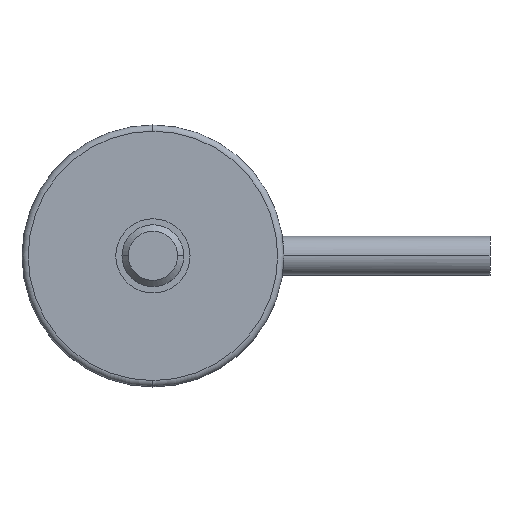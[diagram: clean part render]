
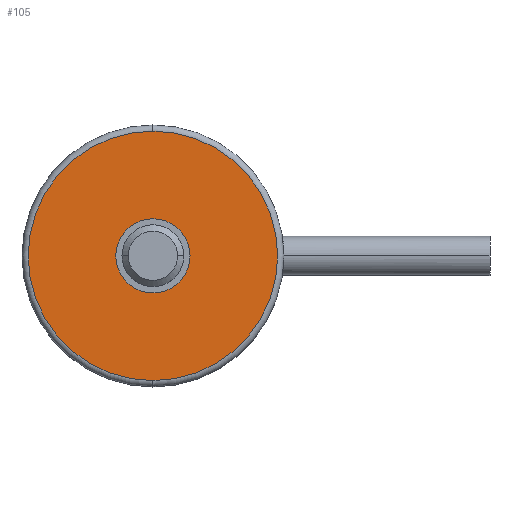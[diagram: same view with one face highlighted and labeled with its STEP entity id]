
A CAD part, top view. The second image highlights one B-rep face of the part: STEP entity #105.
In plain terms, the highlighted planar face has unit normal (0, 0, 1).
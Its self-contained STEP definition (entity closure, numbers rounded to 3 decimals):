
#105=ADVANCED_FACE('',(#173,#174),#175,.T.);
#173=FACE_BOUND('',#247,.T.);
#174=FACE_OUTER_BOUND('',#248,.T.);
#175=PLANE('',#249);
#247=EDGE_LOOP('',(#473,#474));
#248=EDGE_LOOP('',(#475,#476,#477));
#249=AXIS2_PLACEMENT_3D('',#478,#479,#480);
#473=ORIENTED_EDGE('',*,*,#587,.T.);
#474=ORIENTED_EDGE('',*,*,#536,.T.);
#475=ORIENTED_EDGE('',*,*,#532,.F.);
#476=ORIENTED_EDGE('',*,*,#531,.F.);
#477=ORIENTED_EDGE('',*,*,#588,.F.);
#478=CARTESIAN_POINT('',(3.025,0.,7.1));
#479=DIRECTION('',(0.,0.,1.0));
#480=DIRECTION('',(-1.0,0.,0.));
#531=EDGE_CURVE('',#619,#622,#623,.T.);
#532=EDGE_CURVE('',#622,#624,#625,.T.);
#536=EDGE_CURVE('',#631,#628,#632,.T.);
#587=EDGE_CURVE('',#628,#631,#710,.T.);
#588=EDGE_CURVE('',#624,#619,#711,.T.);
#619=VERTEX_POINT('',#763);
#622=VERTEX_POINT('',#766);
#623=CIRCLE('',#767,6.05);
#624=VERTEX_POINT('',#768);
#625=CIRCLE('',#769,6.05);
#628=VERTEX_POINT('',#772);
#631=VERTEX_POINT('',#776);
#632=CIRCLE('',#777,1.8);
#710=CIRCLE('',#893,1.8);
#711=CIRCLE('',#894,6.05);
#763=CARTESIAN_POINT('',(0.,6.05,7.1));
#766=CARTESIAN_POINT('',(6.05,0.,7.1));
#767=AXIS2_PLACEMENT_3D('',#931,#932,#933);
#768=CARTESIAN_POINT('',(0.,-6.05,7.1));
#769=AXIS2_PLACEMENT_3D('',#934,#935,#936);
#772=CARTESIAN_POINT('',(1.8,0.0,7.1));
#776=CARTESIAN_POINT('',(-1.8,0.,7.1));
#777=AXIS2_PLACEMENT_3D('',#944,#945,#946);
#893=AXIS2_PLACEMENT_3D('',#1052,#1053,#1054);
#894=AXIS2_PLACEMENT_3D('',#1055,#1056,#1057);
#931=CARTESIAN_POINT('',(0.0,0.,7.1));
#932=DIRECTION('',(0.0,0.,-1.0));
#933=DIRECTION('',(1.0,0.0,0.0));
#934=CARTESIAN_POINT('',(0.0,0.,7.1));
#935=DIRECTION('',(0.0,0.,-1.0));
#936=DIRECTION('',(1.0,0.0,0.0));
#944=CARTESIAN_POINT('',(0.0,0.0,7.1));
#945=DIRECTION('',(0.,0.,-1.0));
#946=DIRECTION('',(1.0,0.,0.));
#1052=CARTESIAN_POINT('',(0.0,0.0,7.1));
#1053=DIRECTION('',(0.,0.,-1.0));
#1054=DIRECTION('',(1.0,0.,0.));
#1055=CARTESIAN_POINT('',(0.0,0.,7.1));
#1056=DIRECTION('',(0.0,0.,-1.0));
#1057=DIRECTION('',(1.0,0.0,0.0));
